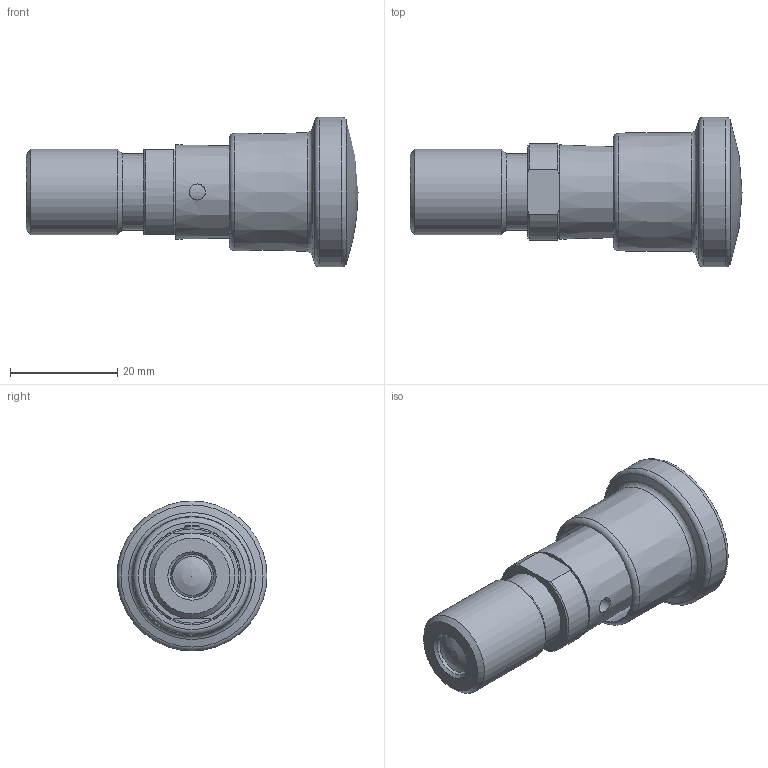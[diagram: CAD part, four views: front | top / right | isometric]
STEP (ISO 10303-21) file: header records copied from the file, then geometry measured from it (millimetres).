
FILE_DESCRIPTION( ( 'STEP AP203' ), '1' );
FILE_NAME( 'C:/Temp/Ganter_Step_05_03_2020/data/3_1/gn816/gn_816_ar/Locking plunger GN 816-8-M16x1,5-AR (activated).stp', '2020-03-12T08:55:46', ( 'License CC BY-ND 4.0' ), ( 'CADENAS' ), ' ', 'PARTsolutions', ' ' );
FILE_SCHEMA( ( 'CONFIG_CONTROL_DESIGN' ) );
Length unit declared in the file: millimetre
Products named in the file (3): Locking plunger GN 816-8-M16x1,5-AR (activated); _GN 816-8-M16x1,5-AR1-2; _GN 816-8-M16x1,5-AR (1)-1
Assembly tree (2 placements, depth 2):
  Locking plunger GN 816-8-M16x1,5-AR (activated)
    _GN 816-8-M16x1,5-AR1-2
    _GN 816-8-M16x1,5-AR (1)-1
Bounding box: 62 x 28 x 28 mm (x, y, z)
Volume: 14525.9 mm3; surface area: 9922.4 mm2
Topology: 2 solids, 2 shells, 52 faces, 106 edges, 66 vertices
Faces by surface type: cylinder 15, cone 15, plane 14, torus 6, sphere 2
Full cylindrical faces by diameter (mm): 2.9 x2, 3 x2, 7 x1, 8 x2, 11.1 x1, 14.2 x1, 16 x1, 18.2 x1, 20.017 x1, 28 x1
Entity records: 1578 total; most frequent: CARTESIAN_POINT 513, DIRECTION 210, ORIENTED_EDGE 136, AXIS2_PLACEMENT_3D 101, EDGE_LOOP 98, FACE_OUTER_BOUND 71, EDGE_CURVE 68, VERTEX_POINT 62
